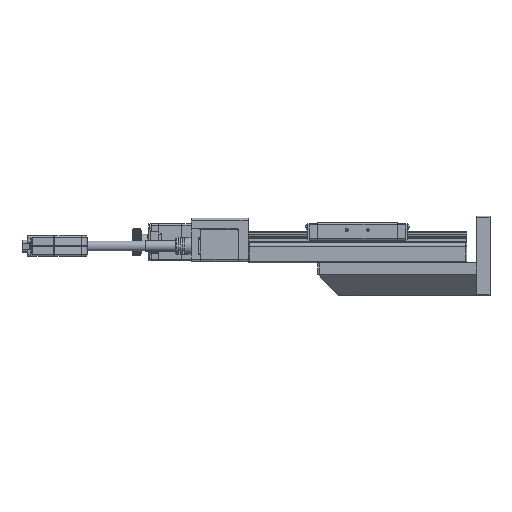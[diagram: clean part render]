
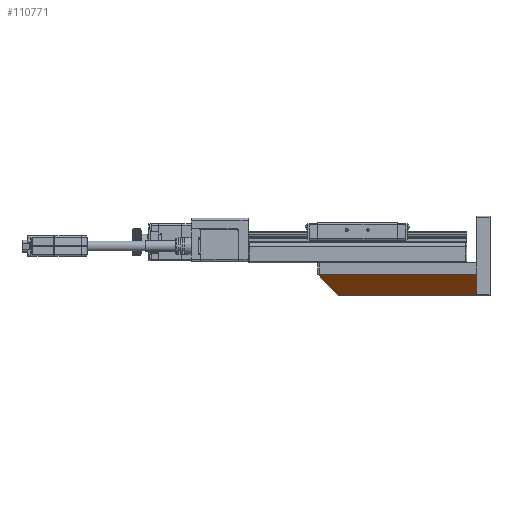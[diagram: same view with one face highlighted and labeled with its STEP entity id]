
A CAD part, left-side view. The second image highlights one B-rep face of the part: STEP entity #110771.
In plain terms, the highlighted planar face has unit normal (-0.707, 0, -0.707).
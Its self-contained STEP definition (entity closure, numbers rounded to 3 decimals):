
#2134 = VERTEX_POINT ( 'NONE', #72984 ) ;
#4476 = FACE_OUTER_BOUND ( 'NONE', #54739, .T. ) ;
#4753 = VECTOR ( 'NONE', #43256, 1000. ) ;
#7667 = EDGE_CURVE ( 'NONE', #2134, #16595, #111574, .T. ) ;
#16595 = VERTEX_POINT ( 'NONE', #121666 ) ;
#17570 = ORIENTED_EDGE ( 'NONE', *, *, #7667, .F. ) ;
#19400 = EDGE_CURVE ( 'NONE', #132345, #16595, #53350, .T. ) ;
#19656 = CARTESIAN_POINT ( 'NONE',  ( -30., 130., -14. ) ) ;
#20436 = CARTESIAN_POINT ( 'NONE',  ( -30., 129.269, -14. ) ) ;
#24652 = DIRECTION ( 'NONE',  ( 0.707, 0., -0.707 ) ) ;
#32338 = ORIENTED_EDGE ( 'NONE', *, *, #38803, .F. ) ;
#33582 =( BOUNDED_CURVE ( )  B_SPLINE_CURVE ( 3, ( #119367, #20436, #140888, #64174 ),
 .UNSPECIFIED., .F., .F. ) 
 B_SPLINE_CURVE_WITH_KNOTS ( ( 4, 4 ),
 ( 3.142, 3.927 ),
 .UNSPECIFIED. ) 
 CURVE ( )  GEOMETRIC_REPRESENTATION_ITEM ( )  RATIONAL_B_SPLINE_CURVE ( ( 1., 0.949, 0.949, 1. ) ) 
 REPRESENTATION_ITEM ( '' )  );
#34678 = CARTESIAN_POINT ( 'NONE',  ( -30., 10., -14. ) ) ;
#38803 = EDGE_CURVE ( 'NONE', #121202, #100917, #128604, .T. ) ;
#41469 = LINE ( 'NONE', #75148, #99279 ) ;
#42860 = DIRECTION ( 'NONE',  ( 0.707, 0., -0.707 ) ) ;
#43256 = DIRECTION ( 'NONE',  ( 0., -1., 0. ) ) ;
#44106 = CARTESIAN_POINT ( 'NONE',  ( -30., 129., -14. ) ) ;
#45590 = CARTESIAN_POINT ( 'NONE',  ( -14., 10., -30. ) ) ;
#53350 = LINE ( 'NONE', #19656, #110072 ) ;
#54739 = EDGE_LOOP ( 'NONE', ( #32338, #119461, #85299, #17570, #85118 ) ) ;
#63525 = VECTOR ( 'NONE', #110846, 1000. ) ;
#64174 = CARTESIAN_POINT ( 'NONE',  ( -29.707, 129.707, -14.293 ) ) ;
#64728 = AXIS2_PLACEMENT_3D ( 'NONE', #34678, #80494, #24652 ) ;
#72984 = CARTESIAN_POINT ( 'NONE',  ( -14., 10., -30. ) ) ;
#75148 = CARTESIAN_POINT ( 'NONE',  ( -30., 10., -14. ) ) ;
#80494 = DIRECTION ( 'NONE',  ( 0.707, 0., 0.707 ) ) ;
#85118 = ORIENTED_EDGE ( 'NONE', *, *, #85157, .F. ) ;
#85157 = EDGE_CURVE ( 'NONE', #100917, #2134, #41469, .T. ) ;
#85299 = ORIENTED_EDGE ( 'NONE', *, *, #19400, .T. ) ;
#93914 = CARTESIAN_POINT ( 'NONE',  ( -29.707, 129.707, -14.293 ) ) ;
#99279 = VECTOR ( 'NONE', #42860, 1000. ) ;
#100917 = VERTEX_POINT ( 'NONE', #141750 ) ;
#106428 = DIRECTION ( 'NONE',  ( 0.577, -0.577, -0.577 ) ) ;
#110072 = VECTOR ( 'NONE', #106428, 1000. ) ;
#110771 = ADVANCED_FACE ( 'NONE', ( #4476 ), #124966, .F. ) ;
#110846 = DIRECTION ( 'NONE',  ( 0., 1., 0. ) ) ;
#111574 = LINE ( 'NONE', #45590, #63525 ) ;
#119367 = CARTESIAN_POINT ( 'NONE',  ( -30., 129., -14. ) ) ;
#119461 = ORIENTED_EDGE ( 'NONE', *, *, #140179, .T. ) ;
#121202 = VERTEX_POINT ( 'NONE', #44106 ) ;
#121666 = CARTESIAN_POINT ( 'NONE',  ( -14., 114., -30. ) ) ;
#124966 = PLANE ( 'NONE',  #64728 ) ;
#128604 = LINE ( 'NONE', #141510, #4753 ) ;
#132345 = VERTEX_POINT ( 'NONE', #93914 ) ;
#140179 = EDGE_CURVE ( 'NONE', #121202, #132345, #33582, .T. ) ;
#140888 = CARTESIAN_POINT ( 'NONE',  ( -29.897, 129.517, -14.103 ) ) ;
#141510 = CARTESIAN_POINT ( 'NONE',  ( -30., 10., -14. ) ) ;
#141750 = CARTESIAN_POINT ( 'NONE',  ( -30., 10., -14. ) ) ;
